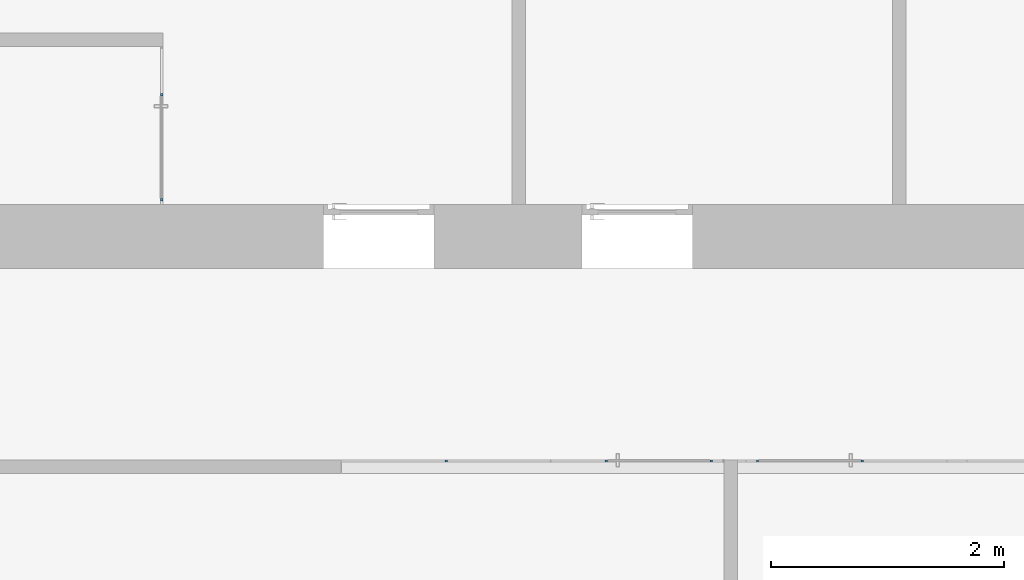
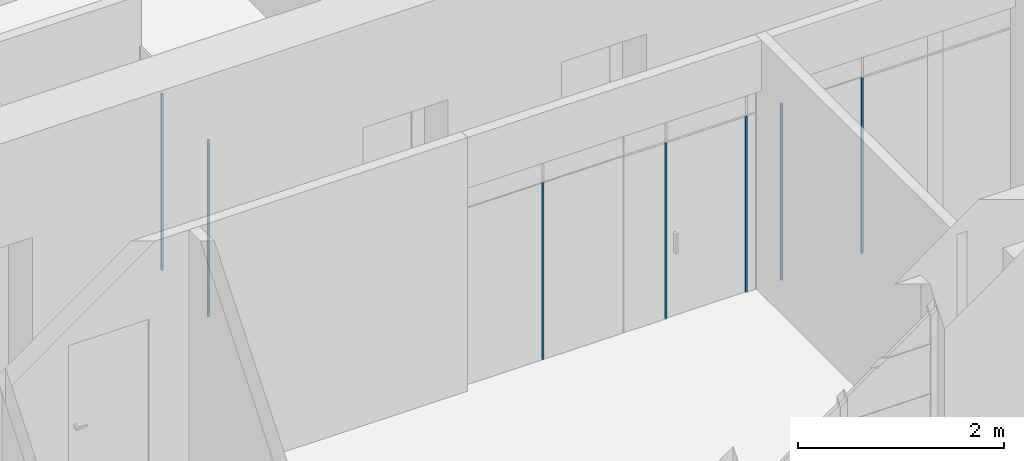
# One storey, part 2 of 73: 7 members, 3 elements without a shape of their own.
"""IFC2X3 building model written with IfcOpenShell, lengths in millimetres."""

from ifc_helpers import new_model, entity, si_unit, converted_unit, derived_unit, direction, frame, origin, origin_2d_with_axis, place, context, subcontext, project, spatial, rectangle, extrude, source, transform, mapped, material, type_object, type_shapes, element, aggregate, save


model = new_model("IFC2X3")

# Units and contexts
model_context = context("Model", 3, precision=0.01, world=origin(), true_north=direction((6.12303176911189e-17, 1.0)))
body_context = subcontext(model_context, "Body", "Model", "MODEL_VIEW")
ifc_project = project(units=[si_unit("LENGTHUNIT", "METRE", prefix="MILLI"), si_unit("AREAUNIT", "SQUARE_METRE"), si_unit("VOLUMEUNIT", "CUBIC_METRE"), converted_unit("PLANEANGLEUNIT", "DEGREE", entity("IfcRatioMeasure", 0.0174532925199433), si_unit("PLANEANGLEUNIT", "RADIAN"), dimensions=[0, 0, 0, 0, 0, 0, 0]), si_unit("MASSUNIT", "GRAM", prefix="KILO"), derived_unit("MASSDENSITYUNIT", [(si_unit("MASSUNIT", "GRAM", prefix="KILO"), 1), (si_unit("LENGTHUNIT", "METRE"), -3)]), si_unit("TIMEUNIT", "SECOND"), si_unit("FREQUENCYUNIT", "HERTZ"), si_unit("THERMODYNAMICTEMPERATUREUNIT", "DEGREE_CELSIUS"), derived_unit("THERMALTRANSMITTANCEUNIT", [(si_unit("MASSUNIT", "GRAM", prefix="KILO"), 1), (si_unit("THERMODYNAMICTEMPERATUREUNIT", "KELVIN"), -1), (si_unit("TIMEUNIT", "SECOND"), -3)]), derived_unit("VOLUMETRICFLOWRATEUNIT", [(si_unit("LENGTHUNIT", "METRE"), 3), (si_unit("TIMEUNIT", "SECOND"), -1)]), si_unit("ELECTRICCURRENTUNIT", "AMPERE"), si_unit("ELECTRICVOLTAGEUNIT", "VOLT"), si_unit("POWERUNIT", "WATT"), si_unit("FORCEUNIT", "NEWTON", prefix="KILO"), si_unit("ILLUMINANCEUNIT", "LUX"), si_unit("LUMINOUSFLUXUNIT", "LUMEN"), si_unit("LUMINOUSINTENSITYUNIT", "CANDELA"), derived_unit("USERDEFINED", [(si_unit("MASSUNIT", "GRAM", prefix="KILO"), -1), (si_unit("LENGTHUNIT", "METRE"), -2), (si_unit("TIMEUNIT", "SECOND"), 3), (si_unit("LUMINOUSFLUXUNIT", "LUMEN"), 1)]), derived_unit("LINEARVELOCITYUNIT", [(si_unit("LENGTHUNIT", "METRE"), 1), (si_unit("TIMEUNIT", "SECOND"), -1)]), si_unit("PRESSUREUNIT", "PASCAL"), derived_unit("USERDEFINED", [(si_unit("LENGTHUNIT", "METRE"), -2), (si_unit("MASSUNIT", "GRAM", prefix="KILO"), 1), (si_unit("TIMEUNIT", "SECOND"), -2)])], contexts=[model_context])

# Site, building, storey
site_placement = place(None, frame((-151.875543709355, 2715.0, 0.0)))
site = spatial("IfcSite", under=ifc_project, at=site_placement, Name="Surface", CompositionType="ELEMENT")
building_placement = place(site_placement, origin())
building = spatial("IfcBuilding", under=site, at=building_placement, CompositionType="ELEMENT")
storey_placement = place(building_placement, frame((0.0, 0.0, 6730.43000000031)))
storey = spatial("IfcBuildingStorey", under=building, at=storey_placement, Name="3 korrus", CompositionType="ELEMENT", Elevation=6730.43000000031)

# Curtain wall, members
curtain_wall_type_1 = type_object("IfcCurtainWallType", Name="Curtain Wall:Klaassein KLS-10", PredefinedType="NOTDEFINED")
curtain_wall_1_placement = place(storey_placement, frame((0.0, 0.0, -6730.43000000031)))
curtain_wall_1 = element("IfcCurtainWall", 1, at=curtain_wall_1_placement, inside=storey, type_object=curtain_wall_type_1, Name="Curtain Wall:Klaassein KLS-10", ObjectType="Curtain Wall:Klaassein KLS-10")
ifc_material = material(Name="__Uks_hele tamm")
member_type_1 = type_object("IfcMemberType", Name="20 x 20mm", PredefinedType="MEMBER")
shared_shape_1 = source(origin(), body_context, "Body", "SweptSolid", [
    extrude(rectangle(XDim=20.0, YDim=20.0, at=origin_2d_with_axis()), frame((0.0, 0.0, -2090.0), z_axis=(0.0, 0.0, 1.0), x_axis=(0.0, -1.0, 0.0)), (0.0, 0.0, 1.0), 2090.0),
])
type_shapes(member_type_1, [shared_shape_1])
member_1_placement = place(storey_placement, frame((10572.8493480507, 7500.0, 0.0), z_axis=(0.0, 0.0, -1.0), x_axis=(0.0, -1.0, 0.0)))
member_1 = element("IfcMember", 2, at=member_1_placement, type_object=member_type_1, material=ifc_material, Name="Rectangular Mullion:20 x 20mm", ObjectType="20 x 20mm", context=body_context, shape_type="MappedRepresentation", body=[
    mapped(shared_shape_1, transform((0.0, 0.0, 0.0), scale=1.0)),
])
member_2_placement = place(storey_placement, frame((10572.8493480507, 6600.0, 0.0), z_axis=(0.0, 0.0, -1.0), x_axis=(0.0, -1.0, 0.0)))
member_2 = element("IfcMember", 3, at=member_2_placement, type_object=member_type_1, material=ifc_material, Name="Rectangular Mullion:20 x 20mm", ObjectType="20 x 20mm", context=body_context, shape_type="MappedRepresentation", body=[
    mapped(shared_shape_1, transform((0.0, 0.0, 0.0), scale=1.0)),
])
aggregate(curtain_wall_1, [member_1, member_2])

# Curtain wall, member
curtain_wall_type_2 = type_object("IfcCurtainWallType", Name="Curtain Wall:Klaassein KLS-18", PredefinedType="NOTDEFINED")
curtain_wall_2_placement = place(storey_placement, frame((0.0, 0.0, -6730.43000000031)))
curtain_wall_2 = element("IfcCurtainWall", 4, at=curtain_wall_2_placement, inside=storey, type_object=curtain_wall_type_2, Name="Curtain Wall:Klaassein KLS-18", ObjectType="Curtain Wall:Klaassein KLS-18")
member_type_2 = type_object("IfcMemberType", Name="20 x 20mm", PredefinedType="MEMBER")
shared_shape_2 = source(origin(), body_context, "Body", "SweptSolid", [
    extrude(rectangle(XDim=20.0, YDim=20.0, at=origin_2d_with_axis()), frame((0.0, 0.0, -2090.0), z_axis=(0.0, 0.0, 1.0), x_axis=(0.0, -1.0, 0.0)), (0.0, 0.0, 1.0), 2090.0),
])
type_shapes(member_type_2, [shared_shape_2])
member_3_placement = place(storey_placement, frame((15689.4201096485, 4355.04493399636, 0.0), z_axis=(0.0, 0.0, -1.0), x_axis=(1.0, 0.0, 0.0)))
member_3 = element("IfcMember", 5, at=member_3_placement, type_object=member_type_2, material=ifc_material, Name="Rectangular Mullion:20 x 20mm", ObjectType="20 x 20mm", context=body_context, shape_type="MappedRepresentation", body=[
    mapped(shared_shape_2, transform((0.0, 0.0, 0.0), scale=1.0)),
])

curtain_wall_type_3 = type_object("IfcCurtainWallType", Name="Curtain Wall:Klaassein KLS-17", PredefinedType="NOTDEFINED")
curtain_wall_3_placement = place(storey_placement, frame((0.0, 0.0, -6730.43000000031)))
curtain_wall_3 = element("IfcCurtainWall", 6, at=curtain_wall_3_placement, inside=storey, type_object=curtain_wall_type_3, Name="Curtain Wall:Klaassein KLS-17", ObjectType="Curtain Wall:Klaassein KLS-17")
member_4_placement = place(storey_placement, frame((13015.5647264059, 4355.04493399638, 0.0), z_axis=(0.0, 0.0, -1.0), x_axis=(1.0, 0.0, 0.0)))
member_4 = element("IfcMember", 7, at=member_4_placement, type_object=member_type_2, material=ifc_material, Name="Rectangular Mullion:20 x 20mm", ObjectType="20 x 20mm", context=body_context, shape_type="MappedRepresentation", body=[
    mapped(shared_shape_2, transform((0.0, 0.0, 0.0), scale=1.0)),
])

# Member
member_type_3 = type_object("IfcMemberType", Name="20 x 20mm", PredefinedType="MEMBER")
shared_shape_3 = source(origin(), body_context, "Body", "SweptSolid", [
    extrude(rectangle(XDim=20.0, YDim=20.0, at=origin_2d_with_axis()), frame((0.0, 0.0, -2080.0), z_axis=(0.0, 0.0, 1.0), x_axis=(0.0, -1.0, 0.0)), (0.0, 0.0, 1.0), 2080.0),
])
type_shapes(member_type_3, [shared_shape_3])
member_5_placement = place(storey_placement, frame((16589.4201096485, 4355.04493399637, 0.0), z_axis=(0.0, 0.0, -1.0), x_axis=(1.0, 0.0, 0.0)))
member_5 = element("IfcMember", 8, at=member_5_placement, type_object=member_type_3, material=ifc_material, Name="Rectangular Mullion:20 x 20mm", ObjectType="20 x 20mm", context=body_context, shape_type="MappedRepresentation", body=[
    mapped(shared_shape_3, transform((0.0, 0.0, 0.0), scale=1.0)),
])

aggregate(curtain_wall_2, [member_3, member_5])

member_type_4 = type_object("IfcMemberType", Name="20 x 20mm", PredefinedType="MEMBER")
shared_shape_4 = source(origin(), body_context, "Body", "SweptSolid", [
    extrude(rectangle(XDim=20.0, YDim=20.0, at=origin_2d_with_axis()), frame((0.0, 0.0, -2080.0), z_axis=(0.0, 0.0, 1.0), x_axis=(0.0, -1.0, 0.0)), (0.0, 0.0, 1.0), 2080.0),
])
type_shapes(member_type_4, [shared_shape_4])
member_6_placement = place(storey_placement, frame((15291.5647264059, 4355.04493399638, 0.0), z_axis=(0.0, 0.0, -1.0), x_axis=(1.0, 0.0, 0.0)))
member_6 = element("IfcMember", 9, at=member_6_placement, type_object=member_type_4, material=ifc_material, Name="Rectangular Mullion:20 x 20mm", ObjectType="20 x 20mm", context=body_context, shape_type="MappedRepresentation", body=[
    mapped(shared_shape_4, transform((0.0, 0.0, 0.0), scale=1.0)),
])

member_type_5 = type_object("IfcMemberType", Name="20 x 20mm", PredefinedType="MEMBER")
shared_shape_5 = source(origin(), body_context, "Body", "SweptSolid", [
    extrude(rectangle(XDim=20.0, YDim=20.0, at=origin_2d_with_axis()), frame((0.0, 0.0, -2080.0), z_axis=(0.0, 0.0, 1.0), x_axis=(0.0, -1.0, 0.0)), (0.0, 0.0, 1.0), 2080.0),
])
type_shapes(member_type_5, [shared_shape_5])
member_7_placement = place(storey_placement, frame((14391.5647264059, 4355.04493399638, 0.0), z_axis=(0.0, 0.0, -1.0), x_axis=(1.0, 0.0, 0.0)))
member_7 = element("IfcMember", 10, at=member_7_placement, type_object=member_type_5, material=ifc_material, Name="Rectangular Mullion:20 x 20mm", ObjectType="20 x 20mm", context=body_context, shape_type="MappedRepresentation", body=[
    mapped(shared_shape_5, transform((0.0, 0.0, 0.0), scale=1.0)),
])

aggregate(curtain_wall_3, [member_4, member_6, member_7])

save(model, "model.ifc")
